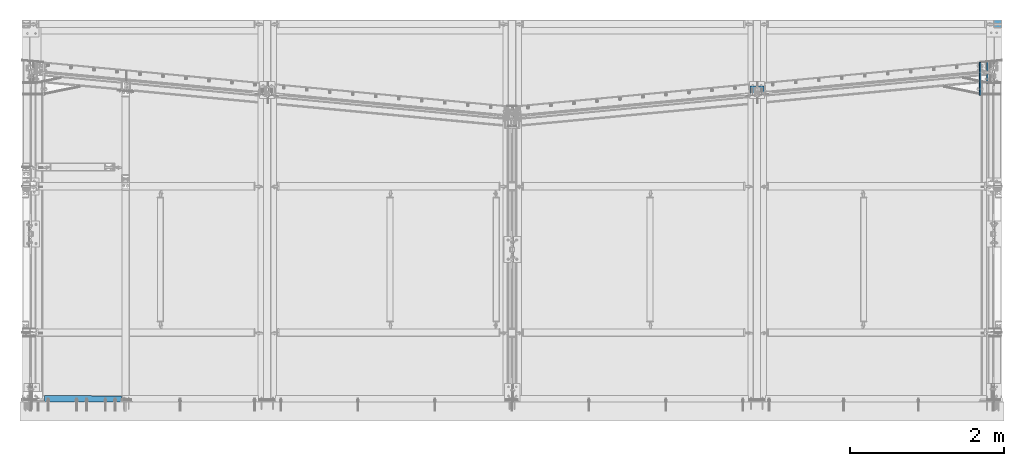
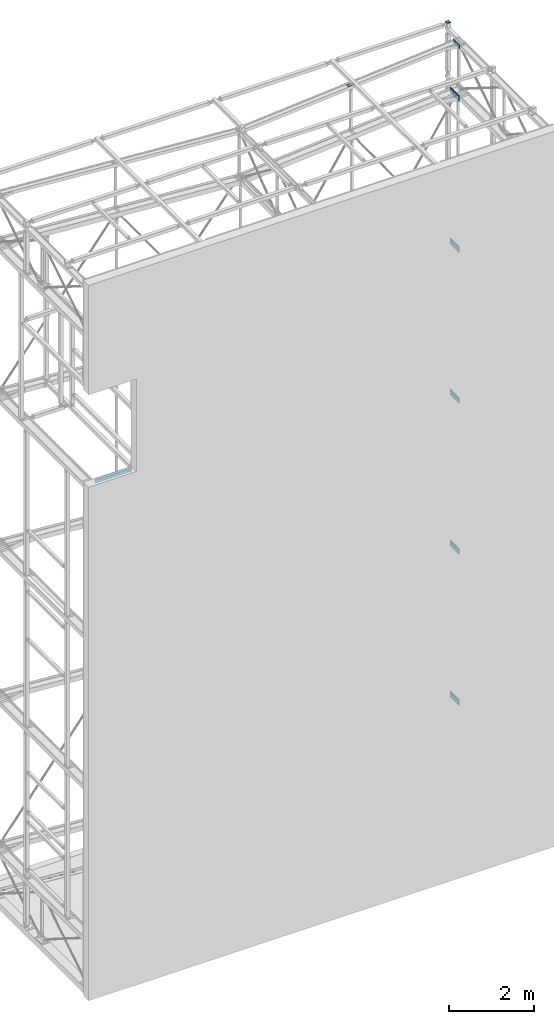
# One storey, part 6 of 271: 8 columns, 1 beam, 9 elements without a shape of their own.
"""IFC2X3 building model written with IfcOpenShell, lengths in millimetres."""

from ifc_helpers import new_model, si_unit, frame, origin_with_axes, origin_2d_with_axis, place, context, subcontext, project, spatial, rectangle, l_section, extrude, material, type_object, element, aggregate, save


model = new_model("IFC2X3")

# Units and contexts
model_context = context("Model", 3, precision=1e-05, world=origin_with_axes())
body_context = subcontext(model_context, "Body", "Model", "MODEL_VIEW")
ifc_project = project(units=[si_unit("LENGTHUNIT", "METRE", prefix="MILLI"), si_unit("AREAUNIT", "SQUARE_METRE"), si_unit("VOLUMEUNIT", "CUBIC_METRE"), si_unit("MASSUNIT", "GRAM", prefix="KILO"), si_unit("TIMEUNIT", "SECOND"), si_unit("PLANEANGLEUNIT", "RADIAN"), si_unit("SOLIDANGLEUNIT", "STERADIAN"), si_unit("THERMODYNAMICTEMPERATUREUNIT", "DEGREE_CELSIUS"), si_unit("LUMINOUSINTENSITYUNIT", "LUMEN")], contexts=[model_context])

# Site, building, storey
site_placement = place(None, origin_with_axes())
site = spatial("IfcSite", under=ifc_project, at=site_placement, Name="Undefined", CompositionType="ELEMENT")
building_placement = place(site_placement, origin_with_axes())
building = spatial("IfcBuilding", under=site, at=building_placement, Name="Undefined", CompositionType="ELEMENT")
storey_placement = place(building_placement, origin_with_axes())
storey = spatial("IfcBuildingStorey", under=building, at=storey_placement, Name="Undefined", CompositionType="ELEMENT", Elevation=0.0)

# Assembly, column
assembly_1_placement = place(storey_placement, origin_with_axes())
assembly_1 = element("IfcElementAssembly", 1, at=assembly_1_placement, inside=storey, AssemblyPlace="NOTDEFINED", PredefinedType="RIGID_FRAME")
ifc_material = material(Name="STEEL/S355JR")
column_type_1 = type_object("IfcColumnType", Name="BL4*100", PredefinedType="NOTDEFINED")
column_1_placement = place(assembly_1_placement, frame((12658.3756870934, 4859.32498425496, 20202.3499999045), z_axis=(0.0, 1.0, 0.0), x_axis=(1.0, 0.0, 0.0)))
column_1 = element("IfcColumn", 2, at=column_1_placement, type_object=column_type_1, material=ifc_material, Name="BLACHA", ObjectType="BL4*100", context=body_context, shape_type="SweptSolid", body=[
    extrude(rectangle(XDim=4.0, YDim=100.0, at=origin_2d_with_axis()), frame((0.0, 0.0, 100.0), z_axis=(0.0, 0.0, -1.0), x_axis=(0.0, 1.0, 0.0)), (0.0, 0.0, 1.0), 100.0),
])
aggregate(assembly_1, [column_1])

assembly_2_placement = place(storey_placement, origin_with_axes())
assembly_2 = element("IfcElementAssembly", 3, at=assembly_2_placement, inside=storey, AssemblyPlace="NOTDEFINED", PredefinedType="RIGID_FRAME")
column_type_2 = type_object("IfcColumnType", Name="BL10*180", PredefinedType="NOTDEFINED")
column_2_placement = place(assembly_2_placement, frame((9528.37568709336, 4000.32498425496, 20013.0), z_axis=(0.0, 1.0, 0.0), x_axis=(-1.0, 0.0, 1.38777878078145e-17)))
column_2 = element("IfcColumn", 4, at=column_2_placement, type_object=column_type_2, material=ifc_material, Name="BLACHA", ObjectType="BL10*180", context=body_context, shape_type="SweptSolid", body=[
    extrude(rectangle(XDim=10.0, YDim=180.0, at=origin_2d_with_axis()), frame((0.0, 0.0, 100.0), z_axis=(0.0, 0.0, -1.0), x_axis=(0.0, 1.0, 0.0)), (0.0, 0.0, 1.0), 100.0),
])
aggregate(assembly_2, [column_2])

assembly_3_placement = place(storey_placement, origin_with_axes())
assembly_3 = element("IfcElementAssembly", 5, at=assembly_3_placement, inside=storey, AssemblyPlace="NOTDEFINED", PredefinedType="RIGID_FRAME")
column_type_3 = type_object("IfcColumnType", Name="BL16*110", PredefinedType="NOTDEFINED")
column_3_placement = place(assembly_3_placement, frame((12519.3756870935, 4130.93190508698, 20004.3499999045), z_axis=(0.0, 1.0, 0.0), x_axis=(0.0, 0.0, -1.0)))
column_3 = element("IfcColumn", 6, at=column_3_placement, type_object=column_type_3, material=ifc_material, Name="BLACHA", ObjectType="BL16*110", context=body_context, shape_type="SweptSolid", body=[
    extrude(rectangle(XDim=16.0, YDim=110.0, at=origin_2d_with_axis()), frame((0.0, 0.0, 286.007007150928), z_axis=(0.0, 0.0, -1.0), x_axis=(0.0, 1.0, 0.0)), (0.0, 0.0, 1.0), 286.01),
])
aggregate(assembly_3, [column_3])

assembly_4_placement = place(storey_placement, origin_with_axes())
assembly_4 = element("IfcElementAssembly", 7, at=assembly_4_placement, inside=storey, AssemblyPlace="NOTDEFINED", PredefinedType="RIGID_FRAME")
column_type_4 = type_object("IfcColumnType", Name="BL20*155", PredefinedType="NOTDEFINED")
column_4_placement = place(assembly_4_placement, frame((12427.3756870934, 3981.62364231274, 5684.34999990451), z_axis=(0.0, 1.0, 0.0), x_axis=(0.0, 0.0, -1.0)))
column_4 = element("IfcColumn", 8, at=column_4_placement, type_object=column_type_4, material=ifc_material, Name="BLACHA", ObjectType="BL20*155", context=body_context, shape_type="SweptSolid", body=[
    extrude(rectangle(XDim=20.0, YDim=155.0, at=origin_2d_with_axis()), frame((0.0, 0.0, 426.447345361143), z_axis=(0.0, 0.0, -1.0), x_axis=(0.0, 1.0, 0.0)), (0.0, 0.0, 1.0), 426.45),
])
aggregate(assembly_4, [column_4])

assembly_5_placement = place(storey_placement, origin_with_axes())
assembly_5 = element("IfcElementAssembly", 9, at=assembly_5_placement, inside=storey, AssemblyPlace="NOTDEFINED", PredefinedType="RIGID_FRAME")
column_5_placement = place(assembly_5_placement, frame((12427.3756870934, 3981.62364231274, 10004.3499999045), z_axis=(0.0, 1.0, 0.0), x_axis=(0.0, 0.0, -1.0)))
column_5 = element("IfcColumn", 10, at=column_5_placement, type_object=column_type_4, material=ifc_material, Name="BLACHA", ObjectType="BL20*155", context=body_context, shape_type="SweptSolid", body=[
    extrude(rectangle(XDim=20.0, YDim=155.0, at=origin_2d_with_axis()), frame((0.0, 0.0, 426.447345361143), z_axis=(0.0, 0.0, -1.0), x_axis=(0.0, 1.0, 0.0)), (0.0, 0.0, 1.0), 426.45),
])
aggregate(assembly_5, [column_5])

assembly_6_placement = place(storey_placement, origin_with_axes())
assembly_6 = element("IfcElementAssembly", 11, at=assembly_6_placement, inside=storey, AssemblyPlace="NOTDEFINED", PredefinedType="RIGID_FRAME")
column_6_placement = place(assembly_6_placement, frame((12427.3756870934, 3981.62364231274, 14324.3499999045), z_axis=(0.0, 1.0, 0.0), x_axis=(0.0, 0.0, -1.0)))
column_6 = element("IfcColumn", 12, at=column_6_placement, type_object=column_type_4, material=ifc_material, Name="BLACHA", ObjectType="BL20*155", context=body_context, shape_type="SweptSolid", body=[
    extrude(rectangle(XDim=20.0, YDim=155.0, at=origin_2d_with_axis()), frame((0.0, 0.0, 426.447345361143), z_axis=(0.0, 0.0, -1.0), x_axis=(0.0, 1.0, 0.0)), (0.0, 0.0, 1.0), 426.45),
])
aggregate(assembly_6, [column_6])

assembly_7_placement = place(storey_placement, origin_with_axes())
assembly_7 = element("IfcElementAssembly", 13, at=assembly_7_placement, inside=storey, AssemblyPlace="NOTDEFINED", PredefinedType="RIGID_FRAME")
column_7_placement = place(assembly_7_placement, frame((12427.3756870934, 3981.62364231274, 18644.3499999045), z_axis=(0.0, 1.0, 0.0), x_axis=(0.0, 0.0, -1.0)))
column_7 = element("IfcColumn", 14, at=column_7_placement, type_object=column_type_4, material=ifc_material, Name="BLACHA", ObjectType="BL20*155", context=body_context, shape_type="SweptSolid", body=[
    extrude(rectangle(XDim=20.0, YDim=155.0, at=origin_2d_with_axis()), frame((0.0, 0.0, 426.447345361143), z_axis=(0.0, 0.0, -1.0), x_axis=(0.0, 1.0, 0.0)), (0.0, 0.0, 1.0), 426.45),
])
aggregate(assembly_7, [column_7])

assembly_8_placement = place(storey_placement, origin_with_axes())
assembly_8 = element("IfcElementAssembly", 15, at=assembly_8_placement, inside=storey, AssemblyPlace="NOTDEFINED", PredefinedType="RIGID_FRAME")
column_8_placement = place(assembly_8_placement, frame((12427.3756870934, 3981.62364231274, 1364.34999990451), z_axis=(0.0, 1.0, 0.0), x_axis=(0.0, 0.0, -1.0)))
column_8 = element("IfcColumn", 16, at=column_8_placement, type_object=column_type_4, material=ifc_material, Name="BLACHA", ObjectType="BL20*155", context=body_context, shape_type="SweptSolid", body=[
    extrude(rectangle(XDim=20.0, YDim=155.0, at=origin_2d_with_axis()), frame((0.0, 0.0, 426.447345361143), z_axis=(0.0, 0.0, -1.0), x_axis=(0.0, 1.0, 0.0)), (0.0, 0.0, 1.0), 426.45),
])
aggregate(assembly_8, [column_8])

# Assembly, beam
assembly_9_placement = place(storey_placement, origin_with_axes())
assembly_9 = element("IfcElementAssembly", 17, at=assembly_9_placement, inside=storey, AssemblyPlace="NOTDEFINED", PredefinedType="RIGID_FRAME")
beam_type = type_object("IfcBeamType", Name="L80*80*6", PredefinedType="NOTDEFINED")
beam_placement = place(assembly_9_placement, frame((273.381578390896, 39.3209792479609, 14351.8499999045), z_axis=(0.0, 0.0, -1.0), x_axis=(0.999999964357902, -0.000266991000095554, 0.0)))
beam = element("IfcBeam", 18, at=beam_placement, type_object=beam_type, material=ifc_material, Name="KĄTOWNIK", ObjectType="L80*80*6", context=body_context, shape_type="SweptSolid", body=[
    extrude(l_section(Depth=80.0, Width=80.0, Thickness=6.0, FilletRadius=9.0, at=origin_2d_with_axis()), frame((1002.00000000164, -5.43185288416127e-17, -1.81898940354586e-12), z_axis=(-1.0, 0.0, 1.38777878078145e-17), x_axis=(0.0, -1.0, 0.0)), (0.0, 0.0, 1.0), 1002.0),
])
aggregate(assembly_9, [beam])

save(model, "model.ifc")
